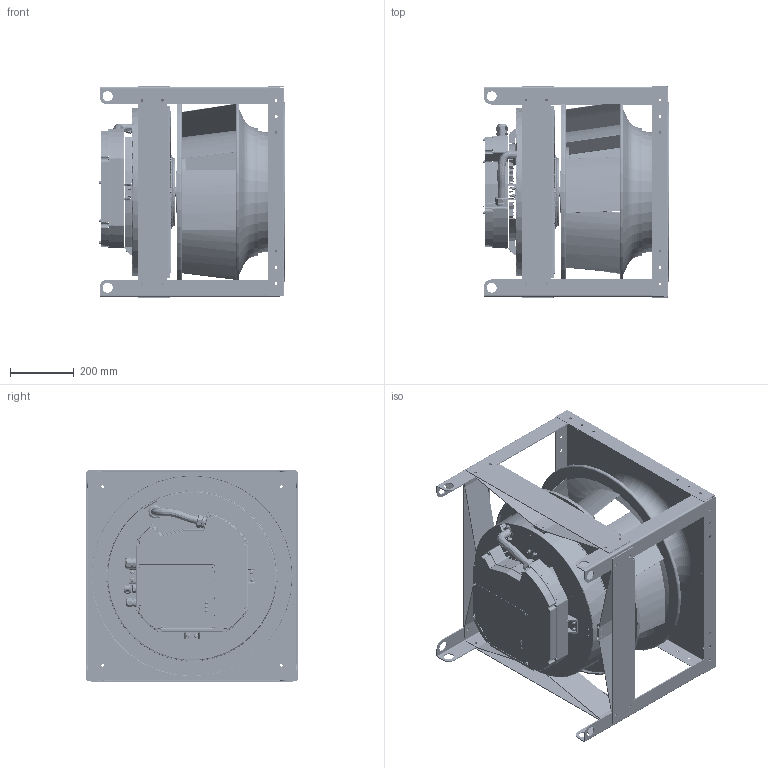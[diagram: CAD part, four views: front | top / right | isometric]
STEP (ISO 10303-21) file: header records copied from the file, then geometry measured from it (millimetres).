
FILE_DESCRIPTION (( 'STEP AP214' ), '1' );
FILE_NAME ('655784.STEP', '2026-04-07T20:41:33', ( '' ), ( '' ), 'SwSTEP 2.0', 'SolidWorks 2023', '' );
FILE_SCHEMA (( 'AUTOMOTIVE_DESIGN' ));
Length unit declared in the file: inch
Products named in the file (8): 651559_651559; 925959CS_925959CS; 651560_651560; 651583_651583; 768050CS_768050CS; 655784; 768038CS_768038CS; SXPI STRAP_651579
Assembly tree (16 placements, depth 2):
  655784
    651559_651559
    768050CS_768050CS
    768038CS_768038CS
    925959CS_925959CS
    651560_651560  x4
    651583_651583  x4
    SXPI STRAP_651579  x4
Bounding box: 581.38 x 663.7 x 663.7 mm (x, y, z)
Volume: 8313357.8 mm3; surface area: 6676341.1 mm2
Topology: 26 solids, 318 shells, 3938 faces, 12582 edges, 8654 vertices
Faces by surface type: plane 1137, cylinder 1085, bspline 1013, cone 329, torus 306, sphere 68
Full cylindrical faces by diameter (mm): 2.9 x2, 3.962 x4, 5.105 x16, 6 x37, 7 x5, 7.137 x16, 7.544 x1, 7.937 x3, 7.938 x1, 8.5 x1, 8.738 x87, 9 x4, 9.73 x8, 10 x8, 10.1 x1, 11.8 x16, 12.5 x1, 12.6 x1, 13 x15, 14 x1, 17.462 x2, 17.463 x2, 23.5 x1, 23.92 x1, 24.282 x1, 25.5 x3, 26.2 x1, 26.35 x1, 26.416 x2, 26.5 x1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
Entity records: 269721 total; most frequent: CARTESIAN_POINT 180276, ORIENTED_EDGE 17898, DIRECTION 15901, EDGE_CURVE 11337, VERTEX_POINT 8069, AXIS2_PLACEMENT_3D 6384, EDGE_LOOP 4457, B_SPLINE_CURVE_WITH_KNOTS 3905
